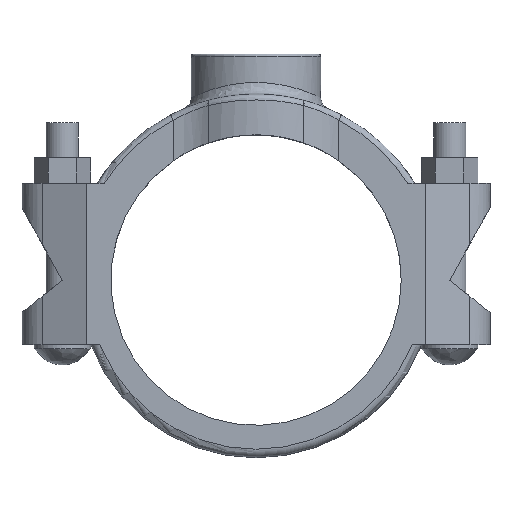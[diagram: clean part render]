
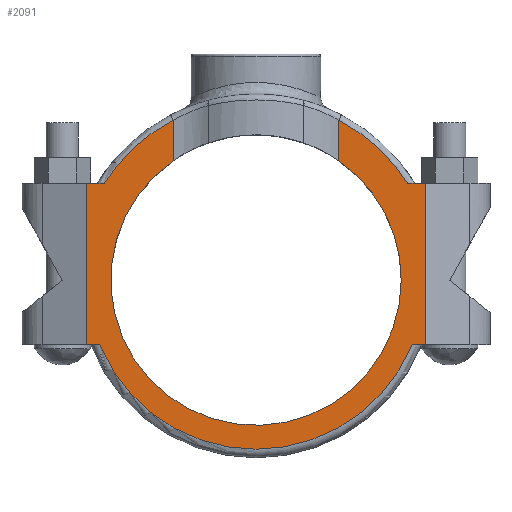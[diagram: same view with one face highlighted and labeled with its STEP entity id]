
A CAD part, top view. The second image highlights one B-rep face of the part: STEP entity #2091.
In plain terms, the highlighted planar face has unit normal (0, 0, 1).
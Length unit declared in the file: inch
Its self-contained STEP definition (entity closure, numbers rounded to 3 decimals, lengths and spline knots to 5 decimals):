
#125=CIRCLE('',#2179,2.79);
#129=CIRCLE('',#2184,2.79);
#159=CIRCLE('',#2259,2.25);
#160=CIRCLE('',#2260,2.25);
#165=CIRCLE('',#2278,2.62);
#339=FACE_OUTER_BOUND('',#451,.T.);
#451=EDGE_LOOP('',(#1692,#1693,#1694,#1695,#1696,#1697,#1698,#1699,#1700,
#1701,#1702,#1703,#1704));
#476=LINE('',#2920,#628);
#581=LINE('',#3961,#733);
#591=LINE('',#3983,#743);
#603=LINE('',#4163,#755);
#604=LINE('',#4164,#756);
#605=LINE('',#4165,#757);
#606=LINE('',#4166,#758);
#607=LINE('',#4167,#759);
#628=VECTOR('',#2345,0.3937);
#733=VECTOR('',#2730,0.3937);
#743=VECTOR('',#2752,0.3937);
#755=VECTOR('',#2812,0.3937);
#756=VECTOR('',#2813,0.3937);
#757=VECTOR('',#2814,0.3937);
#758=VECTOR('',#2815,0.3937);
#759=VECTOR('',#2816,0.3937);
#780=VERTEX_POINT('',#2917);
#781=VERTEX_POINT('',#2919);
#848=VERTEX_POINT('',#3312);
#849=VERTEX_POINT('',#3314);
#852=VERTEX_POINT('',#3427);
#853=VERTEX_POINT('',#3435);
#922=VERTEX_POINT('',#3892);
#923=VERTEX_POINT('',#3894);
#926=VERTEX_POINT('',#3924);
#937=VERTEX_POINT('',#3980);
#938=VERTEX_POINT('',#3982);
#940=VERTEX_POINT('',#3987);
#942=VERTEX_POINT('',#4000);
#976=EDGE_CURVE('',#780,#781,#476,.T.);
#1062=EDGE_CURVE('',#848,#849,#125,.T.);
#1071=EDGE_CURVE('',#853,#852,#129,.T.);
#1173=EDGE_CURVE('',#923,#922,#159,.T.);
#1177=EDGE_CURVE('',#922,#926,#160,.T.);
#1190=EDGE_CURVE('',#923,#848,#581,.T.);
#1201=EDGE_CURVE('',#938,#937,#591,.T.);
#1206=EDGE_CURVE('',#940,#942,#165,.T.);
#1237=EDGE_CURVE('',#853,#781,#603,.T.);
#1238=EDGE_CURVE('',#940,#780,#604,.T.);
#1239=EDGE_CURVE('',#938,#942,#605,.T.);
#1240=EDGE_CURVE('',#937,#849,#606,.T.);
#1241=EDGE_CURVE('',#926,#852,#607,.T.);
#1692=ORIENTED_EDGE('',*,*,#1237,.T.);
#1693=ORIENTED_EDGE('',*,*,#976,.F.);
#1694=ORIENTED_EDGE('',*,*,#1238,.F.);
#1695=ORIENTED_EDGE('',*,*,#1206,.T.);
#1696=ORIENTED_EDGE('',*,*,#1239,.F.);
#1697=ORIENTED_EDGE('',*,*,#1201,.T.);
#1698=ORIENTED_EDGE('',*,*,#1240,.T.);
#1699=ORIENTED_EDGE('',*,*,#1062,.F.);
#1700=ORIENTED_EDGE('',*,*,#1190,.F.);
#1701=ORIENTED_EDGE('',*,*,#1173,.T.);
#1702=ORIENTED_EDGE('',*,*,#1177,.T.);
#1703=ORIENTED_EDGE('',*,*,#1241,.T.);
#1704=ORIENTED_EDGE('',*,*,#1071,.F.);
#1893=PLANE('',#2299);
#2091=ADVANCED_FACE('',(#339),#1893,.T.);
#2179=AXIS2_PLACEMENT_3D('',#3315,#2485,#2486);
#2184=AXIS2_PLACEMENT_3D('',#3446,#2495,#2496);
#2259=AXIS2_PLACEMENT_3D('',#3895,#2700,#2701);
#2260=AXIS2_PLACEMENT_3D('',#3937,#2702,#2703);
#2278=AXIS2_PLACEMENT_3D('',#4011,#2758,#2759);
#2299=AXIS2_PLACEMENT_3D('',#4162,#2810,#2811);
#2345=DIRECTION('',(0.,1.,0.));
#2485=DIRECTION('center_axis',(0.,0.,-1.));
#2486=DIRECTION('ref_axis',(0.676,0.737,0.));
#2495=DIRECTION('center_axis',(0.,0.,-1.));
#2496=DIRECTION('ref_axis',(-0.676,0.737,0.));
#2700=DIRECTION('center_axis',(0.,0.,-1.));
#2701=DIRECTION('ref_axis',(-1.,0.,0.));
#2702=DIRECTION('center_axis',(0.,0.,-1.));
#2703=DIRECTION('ref_axis',(-1.,0.,0.));
#2730=DIRECTION('',(0.,1.,0.));
#2752=DIRECTION('',(0.,1.,0.));
#2758=DIRECTION('center_axis',(0.,0.,1.));
#2759=DIRECTION('ref_axis',(-1.,0.,0.));
#2810=DIRECTION('center_axis',(0.,0.,1.));
#2811=DIRECTION('ref_axis',(1.,0.,0.));
#2812=DIRECTION('',(-1.,0.,0.));
#2813=DIRECTION('',(-1.,0.,0.));
#2814=DIRECTION('',(-1.,0.,0.));
#2815=DIRECTION('',(-1.,0.,0.));
#2816=DIRECTION('',(0.,1.,0.));
#2917=CARTESIAN_POINT('',(-2.625,-1.,1.));
#2919=CARTESIAN_POINT('',(-2.625,1.5,1.));
#2920=CARTESIAN_POINT('',(-2.625,0.,1.));
#3312=CARTESIAN_POINT('',(1.28087,2.4786,1.));
#3314=CARTESIAN_POINT('',(2.35247,1.5,1.));
#3315=CARTESIAN_POINT('Origin',(0.,0.,1.));
#3427=CARTESIAN_POINT('',(-1.28087,2.4786,1.));
#3435=CARTESIAN_POINT('',(-2.35247,1.5,1.));
#3446=CARTESIAN_POINT('Origin',(0.,0.,1.));
#3892=CARTESIAN_POINT('',(2.25,0.,1.));
#3894=CARTESIAN_POINT('',(1.28087,1.84983,1.));
#3895=CARTESIAN_POINT('Origin',(0.,0.,1.));
#3924=CARTESIAN_POINT('',(-1.28087,1.84983,1.));
#3937=CARTESIAN_POINT('Origin',(0.,0.,1.));
#3961=CARTESIAN_POINT('',(1.28087,0.,1.));
#3980=CARTESIAN_POINT('',(2.625,1.5,1.));
#3982=CARTESIAN_POINT('',(2.625,-1.,1.));
#3983=CARTESIAN_POINT('',(2.625,0.,1.));
#3987=CARTESIAN_POINT('',(-2.42165,-1.,1.));
#4000=CARTESIAN_POINT('',(2.42165,-1.,1.));
#4011=CARTESIAN_POINT('Origin',(0.,0.,
1.));
#4162=CARTESIAN_POINT('Origin',(1.28087,0.,1.));
#4163=CARTESIAN_POINT('',(-3.125,1.5,1.));
#4164=CARTESIAN_POINT('',(-2.625,-1.,1.));
#4165=CARTESIAN_POINT('',(-2.625,-1.,1.));
#4166=CARTESIAN_POINT('',(1.8697,1.5,1.));
#4167=CARTESIAN_POINT('',(-1.28087,0.,1.));
